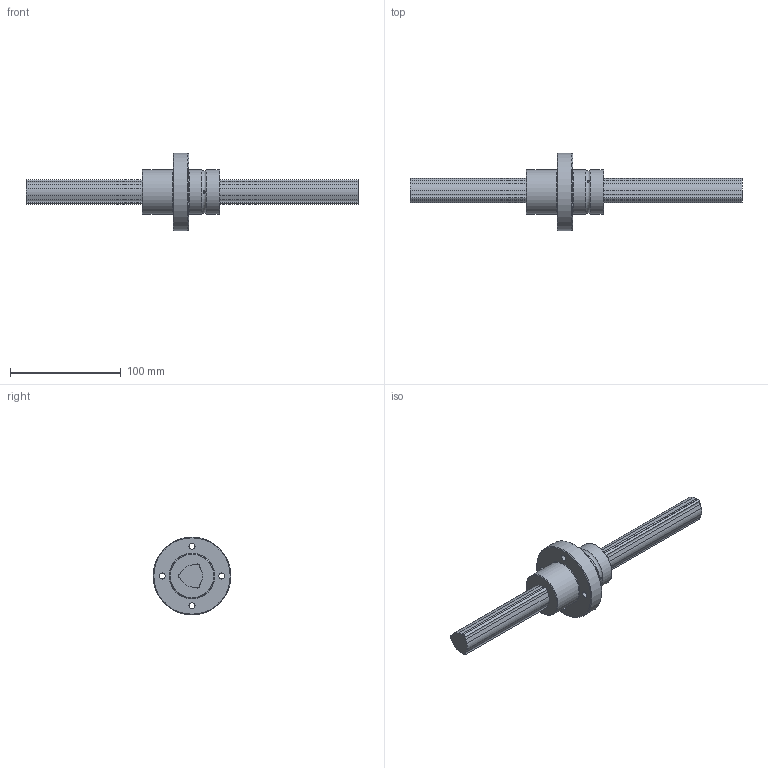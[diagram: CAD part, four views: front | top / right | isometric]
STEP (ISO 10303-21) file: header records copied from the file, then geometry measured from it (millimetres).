
FILE_DESCRIPTION(/* description */ ('STEP AP214'),/* implementation_level */ '2;1');
FILE_NAME(/* name */ 'LBR25+300L(701050)',/* time_stamp */ '2024-09-04T13:07:15+02:00',/* author */ ('License CC BY-ND 4.0'),/* organization */ ('CADENAS'),/* preprocessor_version */ 'ST-DEVELOPER v19.3',/* originating_system */ 'PARTsolutions',/* authorisation */ ' ');
FILE_SCHEMA (('AUTOMOTIVE_DESIGN {1 0 10303 214 3 1 1}'));
Length unit declared in the file: millimetre
Products named in the file (3): LBR25+300L(701050); LBR251300 Spline Shaft; LBR25 Nut
Assembly tree (2 placements, depth 2):
  LBR25+300L(701050)
    LBR251300 Spline Shaft
    LBR25 Nut
Bounding box: 300 x 70.4 x 70.4 mm (x, y, z)
Volume: 200591 mm3; surface area: 45011.2 mm2
Topology: 2 solids, 2 shells, 63 faces, 158 edges, 104 vertices
Faces by surface type: cylinder 35, plane 21, torus 5, cone 2
Full cylindrical faces by diameter (mm): 2 x3, 5.5 x4, 40 x2, 40.35 x1, 70.4 x1
Entity records: 1906 total; most frequent: DIRECTION 338, CARTESIAN_POINT 332, ORIENTED_EDGE 272, AXIS2_PLACEMENT_3D 139, EDGE_CURVE 136, VERTEX_POINT 100, EDGE_LOOP 96, FACE_BOUND 96
